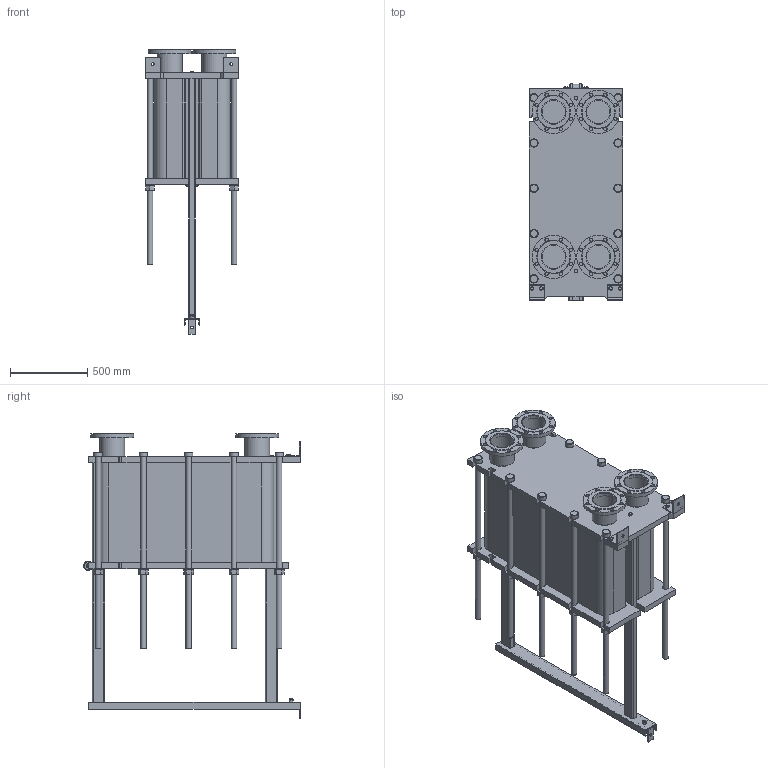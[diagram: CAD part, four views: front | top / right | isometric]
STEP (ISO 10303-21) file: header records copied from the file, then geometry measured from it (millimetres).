
FILE_DESCRIPTION(/* description */ (''),/* implementation_level */ '2;1');
FILE_NAME(/* name */ 'C:\Users\zhuro\Desktop\ENCO\TO\ЭН-041\ЭН-0,5-041-188-1.stp',/* time_stamp */ '2022-06-06T11:05:37+03:00',/* author */ ('zhuro'),/* organization */ (''),/* preprocessor_version */ 'ST-DEVELOPER v18.1',/* originating_system */ 'Autodesk Inventor 2022',/* authorisation */ '');
FILE_SCHEMA (('AUTOMOTIVE_DESIGN { 1 0 10303 214 3 1 1 }'));
Length unit declared in the file: millimetre
Products named in the file (1): ЭН-0,5-041-188-1
Bounding box: 610 x 1406.5 x 1850 mm (x, y, z)
Volume: 451453956.1 mm3; surface area: 10964839 mm2
Topology: 52 solids, 52 shells, 711 faces, 1696 edges, 1094 vertices
Faces by surface type: plane 487, cylinder 177, cone 41, torus 6
Full cylindrical faces by diameter (mm): 8 x4, 10 x2, 16 x8, 18 x3, 22 x32, 36 x24, 50 x1, 54 x10, 60 x12, 151 x4, 161 x8, 280 x4
Entity records: 22667 total; most frequent: CARTESIAN_POINT 5230, DIRECTION 3644, ORIENTED_EDGE 3392, EDGE_CURVE 1696, AXIS2_PLACEMENT_3D 1272, LINE 1100, VECTOR 1100, VERTEX_POINT 1094
